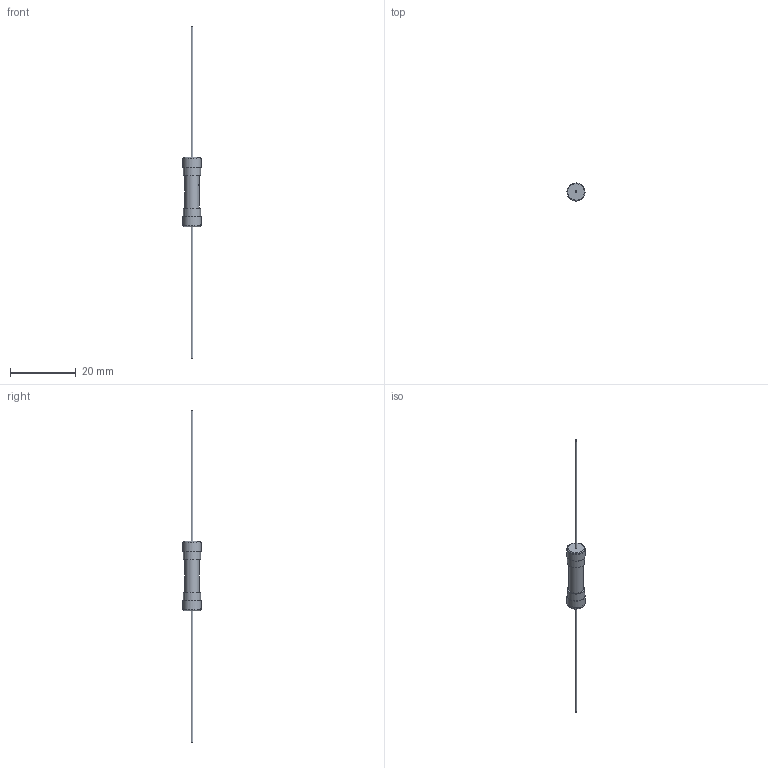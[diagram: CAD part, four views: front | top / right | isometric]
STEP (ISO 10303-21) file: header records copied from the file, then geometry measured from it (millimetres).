
FILE_DESCRIPTION(/* description */ (''),/* implementation_level */ '2;1');
FILE_NAME(/* name */ 'C:\Users\Hani\Desktop\work\FSC\FSC-P.stp',/* time_stamp */ '2022-01-30T10:20:39-08:00',/* author */ ('Hani'),/* organization */ (''),/* preprocessor_version */ 'ST-DEVELOPER v17',/* originating_system */ 'Autodesk Inventor 2019',/* authorisation */ '');
FILE_SCHEMA (('AUTOMOTIVE_DESIGN { 1 0 10303 214 3 1 1 }'));
Length unit declared in the file: inch
Products named in the file (3): FSC-P; FSC; terminal_wire_5.5mm-40L
Assembly tree (3 placements, depth 2):
  FSC-P
    FSC
    terminal_wire_5.5mm-40L  x2
Bounding box: 5.5 x 5.5 x 101.02 mm (x, y, z)
Volume: 413.4 mm3; surface area: 941.1 mm2
Topology: 4 solids, 4 shells, 165 faces, 441 edges, 294 vertices
Faces by surface type: plane 71, bspline 67, cylinder 23, torus 4
Full cylindrical faces by diameter (mm): 0.6 x2, 4.318 x1, 4.438 x1, 5.2 x4, 5.5 x2
Entity records: 6490 total; most frequent: CARTESIAN_POINT 2759, ORIENTED_EDGE 856, DIRECTION 574, EDGE_CURVE 428, VERTEX_POINT 285, LINE 192, VECTOR 192, AXIS2_PLACEMENT_3D 191
